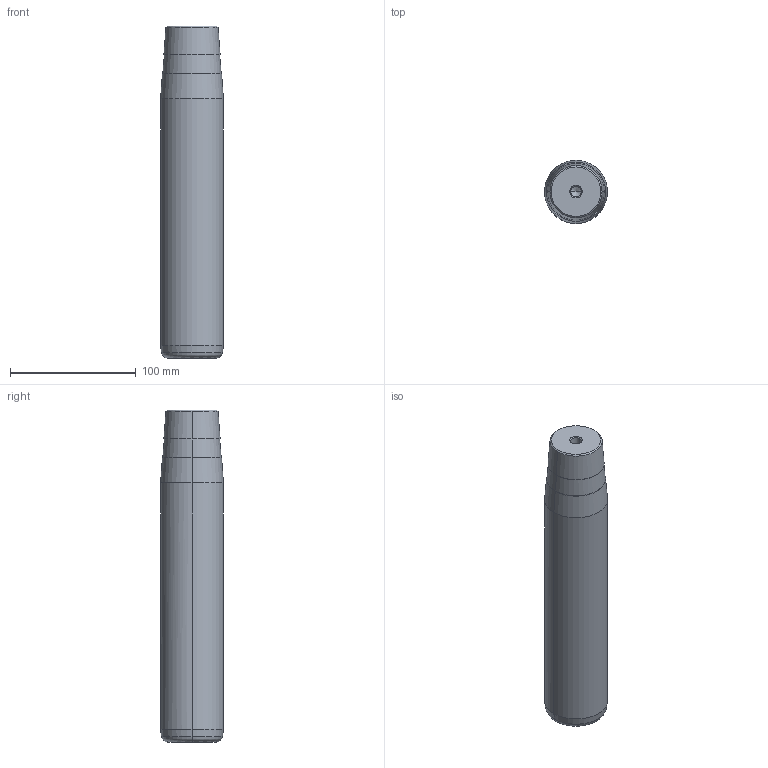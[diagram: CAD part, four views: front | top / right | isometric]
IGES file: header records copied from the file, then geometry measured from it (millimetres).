
Start section: START RECORD GO HERE.
Global section: file name: 722-50x224x264.igs; native system: DASSAULT SYSTEMES CATIA V5 R20 - www.3ds.com; preprocessor: CATIA Version 5 Release 20 ; author: Utente; organization: NB04-ASUS; date: 20210107.203929; units: millimetre
Bounding box: 50 x 50 x 264 mm (x, y, z)
Surface area: 44867.9 mm2 (no closed solid volume)
Topology: 0 solids, 0 shells, 32 faces, 128 edges, 124 vertices
Faces by surface type: revolution 30, plane 2
